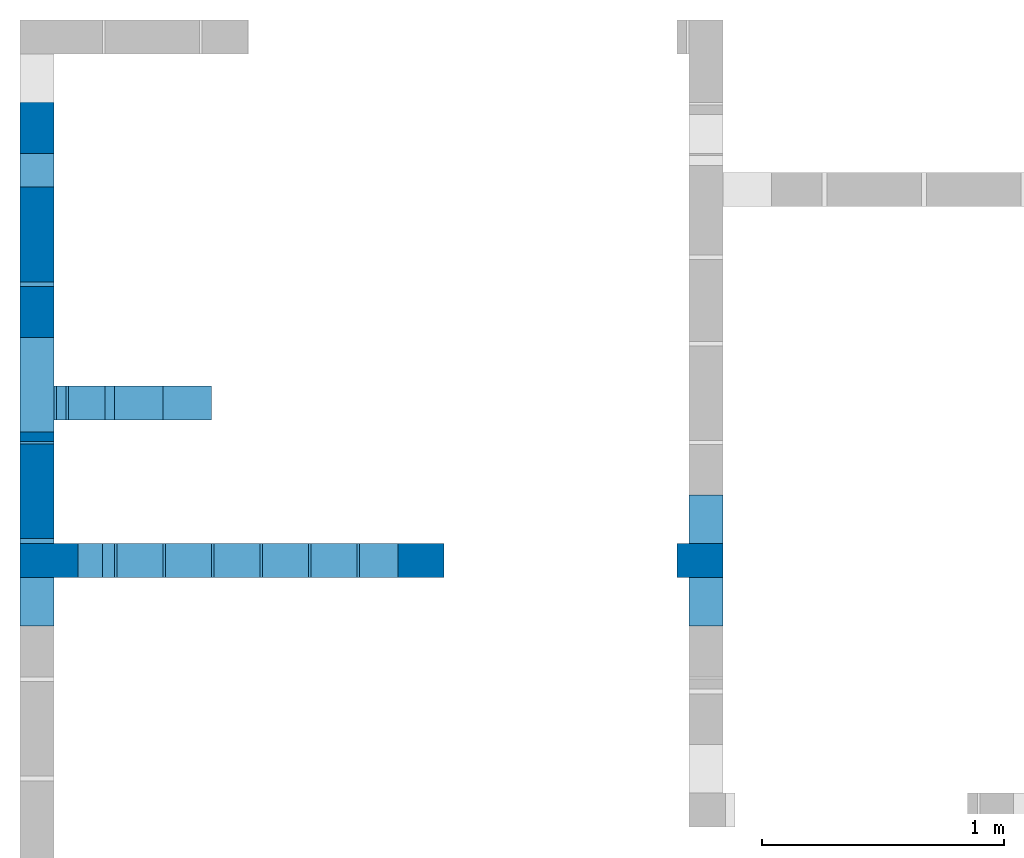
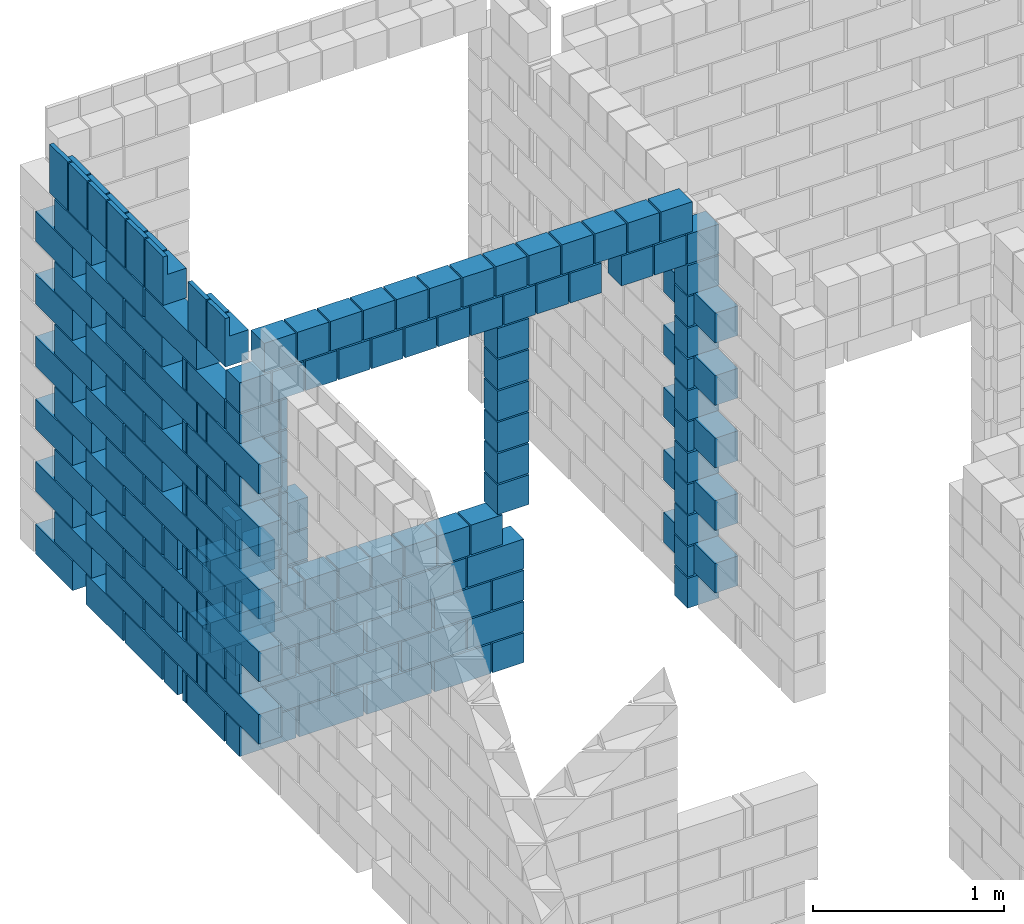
# One storey, part 8 of 12: 8 walls.
"""IFC4 building model written with IfcOpenShell, lengths in centimetres."""

from ifc_helpers import new_model, si_unit, derived_unit, frame, origin, origin_with_axes, origin_2d_with_axis, place, context, project, spatial, rectangle, extrude, element, save


model = new_model("IFC4")

# Units and contexts
model_context = context("Model", 3, precision=1e-05, world=origin_with_axes(), identifier="Body")
ifc_project = project(units=[si_unit("LENGTHUNIT", "METRE", prefix="CENTI"), si_unit("VOLUMEUNIT", "CUBIC_METRE"), si_unit("AREAUNIT", "SQUARE_METRE"), si_unit("POWERUNIT", "WATT"), si_unit("LUMINOUSFLUXUNIT", "LUMEN"), si_unit("ELECTRICCURRENTUNIT", "AMPERE"), si_unit("PRESSUREUNIT", "PASCAL", prefix="KILO"), si_unit("MASSUNIT", "GRAM", prefix="KILO"), si_unit("PLANEANGLEUNIT", "RADIAN"), derived_unit("VOLUMETRICFLOWRATEUNIT", [(si_unit("LENGTHUNIT", "METRE"), 3), (si_unit("TIMEUNIT", "SECOND"), -1)])], contexts=[model_context])

# Site, building, storey
site_placement = place(None, origin_with_axes())
site = spatial("IfcSite", under=ifc_project, at=site_placement)
building_placement = place(site_placement, origin())
building = spatial("IfcBuilding", under=site, at=building_placement)
storey_placement = place(building_placement, origin_with_axes())
storey = spatial("IfcBuildingStorey", under=building, at=storey_placement, Name="PISO", CompositionType="ELEMENT", Elevation=0.0)

# Walls
wall_1_placement = place(storey_placement, frame((18.0, 725.01, 239.0), z_axis=(0.0, 0.0, 1.0), x_axis=(1.0, 0.0, 0.0)))
element("IfcWall", 1, at=wall_1_placement, inside=storey, context=model_context, shape_type="SolidModel", body=[
    extrude(rectangle(XDim=34.0, YDim=14.0, at=origin_2d_with_axis()), frame((0.0, 0.0, -239.0), z_axis=(0.0, 0.0, 1.0), x_axis=(1.0, 0.0, 0.0)), (0.0, 0.0, 1.0), 19.0),
    extrude(rectangle(XDim=54.0, YDim=14.0, at=origin_2d_with_axis()), frame((-10.0, 0.0, -219.0), z_axis=(0.0, 0.0, 1.0), x_axis=(0.0, -1.0, 0.0)), (0.0, 0.0, 1.0), 19.0),
    extrude(rectangle(XDim=34.0, YDim=14.0, at=origin_2d_with_axis()), frame((0.0, 0.0, -199.0), z_axis=(0.0, 0.0, 1.0), x_axis=(1.0, 0.0, 0.0)), (0.0, 0.0, 1.0), 19.0),
    extrude(rectangle(XDim=54.0, YDim=14.0, at=origin_2d_with_axis()), frame((-10.0, 0.0, -179.0), z_axis=(0.0, 0.0, 1.0), x_axis=(0.0, -1.0, 0.0)), (0.0, 0.0, 1.0), 19.0),
    extrude(rectangle(XDim=34.0, YDim=14.0, at=origin_2d_with_axis()), frame((0.0, 0.0, -159.0), z_axis=(0.0, 0.0, 1.0), x_axis=(1.0, 0.0, 0.0)), (0.0, 0.0, 1.0), 19.0),
    extrude(rectangle(XDim=54.0, YDim=14.0, at=origin_2d_with_axis()), frame((-10.0, 0.0, -139.0), z_axis=(0.0, 0.0, 1.0), x_axis=(0.0, -1.0, 0.0)), (0.0, 0.0, 1.0), 19.0),
    extrude(rectangle(XDim=54.0, YDim=14.0, at=origin_2d_with_axis()), frame((-10.0, 0.0, -99.0), z_axis=(0.0, 0.0, 1.0), x_axis=(0.0, -1.0, 0.0)), (0.0, 0.0, 1.0), 19.0),
    extrude(rectangle(XDim=54.0, YDim=14.0, at=origin_2d_with_axis()), frame((-10.0, 0.0, -59.0), z_axis=(0.0, 0.0, 1.0), x_axis=(0.0, -1.0, 0.0)), (0.0, 0.0, 1.0), 19.0),
    extrude(rectangle(XDim=54.0, YDim=14.0, at=origin_2d_with_axis()), frame((-10.0, 0.0, -19.0), z_axis=(0.0, 0.0, 1.0), x_axis=(0.0, -1.0, 0.0)), (0.0, 0.0, 1.0), 19.0),
])
wall_2_placement = place(storey_placement, frame((281.5, 660.01, 239.0), z_axis=(0.0, 0.0, 1.0), x_axis=(1.0, 0.0, 0.0)))
element("IfcWall", 2, at=wall_2_placement, inside=storey, context=model_context, shape_type="SolidModel", body=[
    extrude(rectangle(XDim=19.0, YDim=14.0, at=origin_2d_with_axis()), frame((0.0, 0.0, -239.0), z_axis=(0.0, 0.0, 1.0), x_axis=(-1.0, 0.0, 0.0)), (0.0, 0.0, 1.0), 19.0),
    extrude(rectangle(XDim=54.0, YDim=14.0, at=origin_2d_with_axis()), frame((2.5, 0.0, -219.0), z_axis=(0.0, 0.0, 1.0), x_axis=(0.0, -1.0, 0.0)), (0.0, 0.0, 1.0), 19.0),
    extrude(rectangle(XDim=19.0, YDim=14.0, at=origin_2d_with_axis()), frame((0.0, 0.0, -199.0), z_axis=(0.0, 0.0, 1.0), x_axis=(-1.0, 0.0, 0.0)), (0.0, 0.0, 1.0), 19.0),
    extrude(rectangle(XDim=54.0, YDim=14.0, at=origin_2d_with_axis()), frame((2.5, 0.0, -179.0), z_axis=(0.0, 0.0, 1.0), x_axis=(0.0, -1.0, 0.0)), (0.0, 0.0, 1.0), 19.0),
    extrude(rectangle(XDim=19.0, YDim=14.0, at=origin_2d_with_axis()), frame((0.0, 0.0, -159.0), z_axis=(0.0, 0.0, 1.0), x_axis=(-1.0, 0.0, 0.0)), (0.0, 0.0, 1.0), 19.0),
    extrude(rectangle(XDim=54.0, YDim=14.0, at=origin_2d_with_axis()), frame((2.5, 0.0, -139.0), z_axis=(0.0, 0.0, 1.0), x_axis=(0.0, -1.0, 0.0)), (0.0, 0.0, 1.0), 19.0),
    extrude(rectangle(XDim=19.0, YDim=14.0, at=origin_2d_with_axis()), frame((0.0, 0.0, -119.0), z_axis=(0.0, 0.0, 1.0), x_axis=(-1.0, 0.0, 0.0)), (0.0, 0.0, 1.0), 19.0),
    extrude(rectangle(XDim=54.0, YDim=14.0, at=origin_2d_with_axis()), frame((2.5, 0.0, -99.0), z_axis=(0.0, 0.0, 1.0), x_axis=(0.0, -1.0, 0.0)), (0.0, 0.0, 1.0), 19.0),
    extrude(rectangle(XDim=19.0, YDim=14.0, at=origin_2d_with_axis()), frame((0.0, 0.0, -79.0), z_axis=(0.0, 0.0, 1.0), x_axis=(-1.0, 0.0, 0.0)), (0.0, 0.0, 1.0), 19.0),
    extrude(rectangle(XDim=54.0, YDim=14.0, at=origin_2d_with_axis()), frame((2.5, 0.0, -59.0), z_axis=(0.0, 0.0, 1.0), x_axis=(0.0, -1.0, 0.0)), (0.0, 0.0, 1.0), 19.0),
    extrude(rectangle(XDim=19.0, YDim=14.0, at=origin_2d_with_axis()), frame((0.0, 0.0, -39.0), z_axis=(0.0, 0.0, 1.0), x_axis=(-1.0, 0.0, 0.0)), (0.0, 0.0, 1.0), 19.0),
    extrude(rectangle(XDim=19.0, YDim=14.0, at=origin_2d_with_axis()), frame((0.0, 0.0, -19.0), z_axis=(0.0, 0.0, 1.0), x_axis=(-1.0, 0.0, 0.0)), (0.0, 0.0, 1.0), 19.0),
])
wall_3_placement = place(storey_placement, frame((18.0, 660.01, 239.0), z_axis=(0.0, 0.0, 1.0), x_axis=(1.0, 0.0, 0.0)))
element("IfcWall", 3, at=wall_3_placement, inside=storey, context=model_context, shape_type="SolidModel", body=[
    extrude(rectangle(XDim=34.0, YDim=14.0, at=origin_2d_with_axis()), frame((0.0, 0.0, -239.0), z_axis=(0.0, 0.0, 1.0), x_axis=(1.0, 0.0, 0.0)), (0.0, 0.0, 1.0), 19.0),
    extrude(rectangle(XDim=54.0, YDim=14.0, at=origin_2d_with_axis()), frame((-10.0, 0.0, -219.0), z_axis=(0.0, 0.0, 1.0), x_axis=(0.0, 1.0, 0.0)), (0.0, 0.0, 1.0), 19.0),
    extrude(rectangle(XDim=34.0, YDim=14.0, at=origin_2d_with_axis()), frame((0.0, 0.0, -199.0), z_axis=(0.0, 0.0, 1.0), x_axis=(1.0, 0.0, 0.0)), (0.0, 0.0, 1.0), 19.0),
    extrude(rectangle(XDim=54.0, YDim=14.0, at=origin_2d_with_axis()), frame((-10.0, 0.0, -179.0), z_axis=(0.0, 0.0, 1.0), x_axis=(0.0, 1.0, 0.0)), (0.0, 0.0, 1.0), 19.0),
    extrude(rectangle(XDim=19.0, YDim=14.0, at=origin_2d_with_axis()), frame((-7.5, 0.0, -159.0), z_axis=(0.0, 0.0, 1.0), x_axis=(1.0, 0.0, 0.0)), (0.0, 0.0, 1.0), 19.0),
    extrude(rectangle(XDim=54.0, YDim=14.0, at=origin_2d_with_axis()), frame((-10.0, 0.0, -139.0), z_axis=(0.0, 0.0, 1.0), x_axis=(0.0, 1.0, 0.0)), (0.0, 0.0, 1.0), 19.0),
    extrude(rectangle(XDim=24.0, YDim=14.0, at=origin_2d_with_axis()), frame((-5.0, 0.0, -119.0), z_axis=(0.0, 0.0, 1.0), x_axis=(1.0, 0.0, 0.0)), (0.0, 0.0, 1.0), 19.0),
    extrude(rectangle(XDim=54.0, YDim=14.0, at=origin_2d_with_axis()), frame((-10.0, 0.0, -99.0), z_axis=(0.0, 0.0, 1.0), x_axis=(0.0, 1.0, 0.0)), (0.0, 0.0, 1.0), 19.0),
    extrude(rectangle(XDim=24.0, YDim=14.0, at=origin_2d_with_axis()), frame((-5.0, 0.0, -79.0), z_axis=(0.0, 0.0, 1.0), x_axis=(1.0, 0.0, 0.0)), (0.0, 0.0, 1.0), 19.0),
    extrude(rectangle(XDim=54.0, YDim=14.0, at=origin_2d_with_axis()), frame((-10.0, 0.0, -59.0), z_axis=(0.0, 0.0, 1.0), x_axis=(0.0, 1.0, 0.0)), (0.0, 0.0, 1.0), 19.0),
    extrude(rectangle(XDim=24.0, YDim=14.0, at=origin_2d_with_axis()), frame((-5.0, 0.0, -39.0), z_axis=(0.0, 0.0, 1.0), x_axis=(1.0, 0.0, 0.0)), (0.0, 0.0, 1.0), 19.0),
    extrude(rectangle(XDim=19.0, YDim=14.0, at=origin_2d_with_axis()), frame((-7.5, 0.0, -19.0), z_axis=(0.0, 0.0, 1.0), x_axis=(1.0, 0.0, 0.0)), (0.0, 0.0, 1.0), 19.0),
])
wall_4_placement = place(storey_placement, frame((60.5, 725.01, 99.0), z_axis=(0.0, 0.0, 1.0), x_axis=(1.0, 0.0, 0.0)))
element("IfcWall", 4, at=wall_4_placement, inside=storey, context=model_context, shape_type="SolidModel", body=[
    extrude(rectangle(XDim=39.0, YDim=14.0, at=origin_2d_with_axis()), frame((0.0, 0.0, -99.0), z_axis=(0.0, 0.0, 1.0), x_axis=(-1.0, 0.0, 0.0)), (0.0, 0.0, 1.0), 19.0),
    extrude(rectangle(XDim=19.0, YDim=14.0, at=origin_2d_with_axis()), frame((10.0, 0.0, -79.0), z_axis=(0.0, 0.0, 1.0), x_axis=(-1.0, 0.0, 0.0)), (0.0, 0.0, 1.0), 19.0),
    extrude(rectangle(XDim=39.0, YDim=14.0, at=origin_2d_with_axis()), frame((0.0, 0.0, -59.0), z_axis=(0.0, 0.0, 1.0), x_axis=(-1.0, 0.0, 0.0)), (0.0, 0.0, 1.0), 19.0),
    extrude(rectangle(XDim=19.0, YDim=14.0, at=origin_2d_with_axis()), frame((10.0, 0.0, -39.0), z_axis=(0.0, 0.0, 1.0), x_axis=(-1.0, 0.0, 0.0)), (0.0, 0.0, 1.0), 19.0),
    extrude(rectangle(XDim=39.0, YDim=14.0, at=origin_2d_with_axis()), frame((0.0, 0.0, -19.0), z_axis=(0.0, 0.0, 1.0), x_axis=(-1.0, 0.0, 0.0)), (0.0, 0.0, 1.0), 19.0),
])
wall_5_placement = place(storey_placement, frame((8.0, 800.01, 271.0), z_axis=(0.0, 0.0, 1.0), x_axis=(1.0, 0.0, 0.0)))
element("IfcWall", 5, at=wall_5_placement, inside=storey, Name="PAR-PISO-11", context=model_context, shape_type="SolidModel", body=[
    extrude(rectangle(XDim=39.0, YDim=14.0, at=origin_2d_with_axis()), frame((0.0, -46.5, -271.0), z_axis=(0.0, 0.0, 1.0), x_axis=(0.0, 1.0, 0.0)), (0.0, 0.0, 1.0), 19.0),
    extrude(rectangle(XDim=39.0, YDim=14.0, at=origin_2d_with_axis()), frame((0.0, -5.5, -271.0), z_axis=(0.0, 0.0, 1.0), x_axis=(0.0, 1.0, 0.0)), (0.0, 0.0, 1.0), 19.0),
    extrude(rectangle(XDim=39.0, YDim=14.0, at=origin_2d_with_axis()), frame((0.0, 47.5, -271.0), z_axis=(0.0, 0.0, 1.0), x_axis=(0.0, 1.0, 0.0)), (0.0, 0.0, 1.0), 19.0),
    extrude(rectangle(XDim=39.0, YDim=14.0, at=origin_2d_with_axis()), frame((0.0, -26.5, -251.0), z_axis=(0.0, 0.0, 1.0), x_axis=(0.0, 1.0, 0.0)), (0.0, 0.0, 1.0), 19.0),
    extrude(rectangle(XDim=39.0, YDim=14.0, at=origin_2d_with_axis()), frame((0.0, 27.5, -251.0), z_axis=(0.0, 0.0, 1.0), x_axis=(0.0, 1.0, 0.0)), (0.0, 0.0, 1.0), 19.0),
    extrude(rectangle(XDim=39.0, YDim=14.0, at=origin_2d_with_axis()), frame((0.0, -46.5, -231.0), z_axis=(0.0, 0.0, 1.0), x_axis=(0.0, 1.0, 0.0)), (0.0, 0.0, 1.0), 19.0),
    extrude(rectangle(XDim=39.0, YDim=14.0, at=origin_2d_with_axis()), frame((0.0, -5.5, -231.0), z_axis=(0.0, 0.0, 1.0), x_axis=(0.0, 1.0, 0.0)), (0.0, 0.0, 1.0), 19.0),
    extrude(rectangle(XDim=39.0, YDim=14.0, at=origin_2d_with_axis()), frame((0.0, 47.5, -231.0), z_axis=(0.0, 0.0, 1.0), x_axis=(0.0, 1.0, 0.0)), (0.0, 0.0, 1.0), 19.0),
    extrude(rectangle(XDim=39.0, YDim=14.0, at=origin_2d_with_axis()), frame((0.0, -26.5, -211.0), z_axis=(0.0, 0.0, 1.0), x_axis=(0.0, 1.0, 0.0)), (0.0, 0.0, 1.0), 19.0),
    extrude(rectangle(XDim=39.0, YDim=14.0, at=origin_2d_with_axis()), frame((0.0, 27.5, -211.0), z_axis=(0.0, 0.0, 1.0), x_axis=(0.0, 1.0, 0.0)), (0.0, 0.0, 1.0), 19.0),
    extrude(rectangle(XDim=39.0, YDim=14.0, at=origin_2d_with_axis()), frame((0.0, -46.5, -191.0), z_axis=(0.0, 0.0, 1.0), x_axis=(0.0, 1.0, 0.0)), (0.0, 0.0, 1.0), 19.0),
    extrude(rectangle(XDim=39.0, YDim=14.0, at=origin_2d_with_axis()), frame((0.0, -5.5, -191.0), z_axis=(0.0, 0.0, 1.0), x_axis=(0.0, 1.0, 0.0)), (0.0, 0.0, 1.0), 19.0),
    extrude(rectangle(XDim=39.0, YDim=14.0, at=origin_2d_with_axis()), frame((0.0, 47.5, -191.0), z_axis=(0.0, 0.0, 1.0), x_axis=(0.0, 1.0, 0.0)), (0.0, 0.0, 1.0), 19.0),
    extrude(rectangle(XDim=39.0, YDim=14.0, at=origin_2d_with_axis()), frame((0.0, -26.5, -171.0), z_axis=(0.0, 0.0, 1.0), x_axis=(0.0, 1.0, 0.0)), (0.0, 0.0, 1.0), 19.0),
    extrude(rectangle(XDim=39.0, YDim=14.0, at=origin_2d_with_axis()), frame((0.0, 27.5, -171.0), z_axis=(0.0, 0.0, 1.0), x_axis=(0.0, 1.0, 0.0)), (0.0, 0.0, 1.0), 19.0),
    extrude(rectangle(XDim=39.0, YDim=14.0, at=origin_2d_with_axis()), frame((0.0, -46.5, -151.0), z_axis=(0.0, 0.0, 1.0), x_axis=(0.0, 1.0, 0.0)), (0.0, 0.0, 1.0), 19.0),
    extrude(rectangle(XDim=39.0, YDim=14.0, at=origin_2d_with_axis()), frame((0.0, -5.5, -151.0), z_axis=(0.0, 0.0, 1.0), x_axis=(0.0, 1.0, 0.0)), (0.0, 0.0, 1.0), 19.0),
    extrude(rectangle(XDim=39.0, YDim=14.0, at=origin_2d_with_axis()), frame((0.0, 47.5, -151.0), z_axis=(0.0, 0.0, 1.0), x_axis=(0.0, 1.0, 0.0)), (0.0, 0.0, 1.0), 19.0),
    extrude(rectangle(XDim=39.0, YDim=14.0, at=origin_2d_with_axis()), frame((0.0, -26.5, -131.0), z_axis=(0.0, 0.0, 1.0), x_axis=(0.0, 1.0, 0.0)), (0.0, 0.0, 1.0), 19.0),
    extrude(rectangle(XDim=39.0, YDim=14.0, at=origin_2d_with_axis()), frame((0.0, 27.5, -131.0), z_axis=(0.0, 0.0, 1.0), x_axis=(0.0, 1.0, 0.0)), (0.0, 0.0, 1.0), 19.0),
    extrude(rectangle(XDim=39.0, YDim=14.0, at=origin_2d_with_axis()), frame((0.0, -46.5, -111.0), z_axis=(0.0, 0.0, 1.0), x_axis=(0.0, 1.0, 0.0)), (0.0, 0.0, 1.0), 19.0),
    extrude(rectangle(XDim=39.0, YDim=14.0, at=origin_2d_with_axis()), frame((0.0, -5.5, -111.0), z_axis=(0.0, 0.0, 1.0), x_axis=(0.0, 1.0, 0.0)), (0.0, 0.0, 1.0), 19.0),
    extrude(rectangle(XDim=39.0, YDim=14.0, at=origin_2d_with_axis()), frame((0.0, 47.5, -111.0), z_axis=(0.0, 0.0, 1.0), x_axis=(0.0, 1.0, 0.0)), (0.0, 0.0, 1.0), 19.0),
    extrude(rectangle(XDim=39.0, YDim=14.0, at=origin_2d_with_axis()), frame((0.0, -26.5, -91.0), z_axis=(0.0, 0.0, 1.0), x_axis=(0.0, 1.0, 0.0)), (0.0, 0.0, 1.0), 19.0),
    extrude(rectangle(XDim=39.0, YDim=14.0, at=origin_2d_with_axis()), frame((0.0, 27.5, -91.0), z_axis=(0.0, 0.0, 1.0), x_axis=(0.0, 1.0, 0.0)), (0.0, 0.0, 1.0), 19.0),
    extrude(rectangle(XDim=39.0, YDim=14.0, at=origin_2d_with_axis()), frame((0.0, -46.5, -71.0), z_axis=(0.0, 0.0, 1.0), x_axis=(0.0, 1.0, 0.0)), (0.0, 0.0, 1.0), 19.0),
    extrude(rectangle(XDim=39.0, YDim=14.0, at=origin_2d_with_axis()), frame((0.0, -5.5, -71.0), z_axis=(0.0, 0.0, 1.0), x_axis=(0.0, 1.0, 0.0)), (0.0, 0.0, 1.0), 19.0),
    extrude(rectangle(XDim=39.0, YDim=14.0, at=origin_2d_with_axis()), frame((0.0, 47.5, -71.0), z_axis=(0.0, 0.0, 1.0), x_axis=(0.0, 1.0, 0.0)), (0.0, 0.0, 1.0), 19.0),
    extrude(rectangle(XDim=39.0, YDim=14.0, at=origin_2d_with_axis()), frame((0.0, -26.5, -51.0), z_axis=(0.0, 0.0, 1.0), x_axis=(0.0, 1.0, 0.0)), (0.0, 0.0, 1.0), 19.0),
    extrude(rectangle(XDim=39.0, YDim=14.0, at=origin_2d_with_axis()), frame((0.0, 27.5, -51.0), z_axis=(0.0, 0.0, 1.0), x_axis=(0.0, 1.0, 0.0)), (0.0, 0.0, 1.0), 19.0),
    extrude(rectangle(XDim=19.0, YDim=2.5, at=origin_2d_with_axis()), frame((-5.75, -57.5, -12.0), z_axis=(0.0, 0.0, 1.0), x_axis=(0.0, 1.0, 0.0)), (0.0, 0.0, 1.0), 12.0),
    extrude(rectangle(XDim=19.0, YDim=14.0, at=origin_2d_with_axis()), frame((0.0, -57.5, -31.0), z_axis=(0.0, 0.0, 1.0), x_axis=(0.0, 1.0, 0.0)), (0.0, 0.0, 1.0), 19.0),
    extrude(rectangle(XDim=19.0, YDim=2.5, at=origin_2d_with_axis()), frame((-5.75, -37.5, -12.0), z_axis=(0.0, 0.0, 1.0), x_axis=(0.0, 1.0, 0.0)), (0.0, 0.0, 1.0), 12.0),
    extrude(rectangle(XDim=19.0, YDim=14.0, at=origin_2d_with_axis()), frame((0.0, -37.5, -31.0), z_axis=(0.0, 0.0, 1.0), x_axis=(0.0, 1.0, 0.0)), (0.0, 0.0, 1.0), 19.0),
    extrude(rectangle(XDim=19.0, YDim=2.5, at=origin_2d_with_axis()), frame((-5.75, -17.5, -12.0), z_axis=(0.0, 0.0, 1.0), x_axis=(0.0, 1.0, 0.0)), (0.0, 0.0, 1.0), 12.0),
    extrude(rectangle(XDim=19.0, YDim=14.0, at=origin_2d_with_axis()), frame((0.0, -17.5, -31.0), z_axis=(0.0, 0.0, 1.0), x_axis=(0.0, 1.0, 0.0)), (0.0, 0.0, 1.0), 19.0),
    extrude(rectangle(XDim=19.0, YDim=2.5, at=origin_2d_with_axis()), frame((-5.75, 2.5, -12.0), z_axis=(0.0, 0.0, 1.0), x_axis=(0.0, 1.0, 0.0)), (0.0, 0.0, 1.0), 12.0),
    extrude(rectangle(XDim=19.0, YDim=14.0, at=origin_2d_with_axis()), frame((0.0, 2.5, -31.0), z_axis=(0.0, 0.0, 1.0), x_axis=(0.0, 1.0, 0.0)), (0.0, 0.0, 1.0), 19.0),
    extrude(rectangle(XDim=19.0, YDim=2.5, at=origin_2d_with_axis()), frame((-5.75, 22.5, -12.0), z_axis=(0.0, 0.0, 1.0), x_axis=(0.0, 1.0, 0.0)), (0.0, 0.0, 1.0), 12.0),
    extrude(rectangle(XDim=19.0, YDim=14.0, at=origin_2d_with_axis()), frame((0.0, 22.5, -31.0), z_axis=(0.0, 0.0, 1.0), x_axis=(0.0, 1.0, 0.0)), (0.0, 0.0, 1.0), 19.0),
    extrude(rectangle(XDim=19.0, YDim=2.5, at=origin_2d_with_axis()), frame((-5.75, 42.5, -12.0), z_axis=(0.0, 0.0, 1.0), x_axis=(0.0, 1.0, 0.0)), (0.0, 0.0, 1.0), 12.0),
    extrude(rectangle(XDim=19.0, YDim=14.0, at=origin_2d_with_axis()), frame((0.0, 42.5, -31.0), z_axis=(0.0, 0.0, 1.0), x_axis=(0.0, 1.0, 0.0)), (0.0, 0.0, 1.0), 19.0),
])
wall_6_placement = place(storey_placement, frame((8.0, 690.51, 271.0), z_axis=(0.0, 0.0, 1.0), x_axis=(1.0, 0.0, 0.0)))
element("IfcWall", 6, at=wall_6_placement, inside=storey, Name="PAR-PISO-11", context=model_context, shape_type="SolidModel", body=[
    extrude(rectangle(XDim=39.0, YDim=14.0, at=origin_2d_with_axis()), frame((0.0, -2.0, -271.0), z_axis=(0.0, 0.0, 1.0), x_axis=(0.0, 1.0, 0.0)), (0.0, 0.0, 1.0), 19.0),
    extrude(rectangle(XDim=4.0, YDim=14.0, at=origin_2d_with_axis()), frame((0.0, 20.5, -271.0), z_axis=(0.0, 0.0, 1.0), x_axis=(0.0, 1.0, 0.0)), (0.0, 0.0, 1.0), 19.0),
    extrude(rectangle(XDim=9.0, YDim=14.0, at=origin_2d_with_axis()), frame((0.0, 2.0, -251.0), z_axis=(0.0, 0.0, 1.0), x_axis=(0.0, 1.0, 0.0)), (0.0, 0.0, 1.0), 19.0),
    extrude(rectangle(XDim=39.0, YDim=14.0, at=origin_2d_with_axis()), frame((0.0, -2.0, -231.0), z_axis=(0.0, 0.0, 1.0), x_axis=(0.0, 1.0, 0.0)), (0.0, 0.0, 1.0), 19.0),
    extrude(rectangle(XDim=4.0, YDim=14.0, at=origin_2d_with_axis()), frame((0.0, 20.5, -231.0), z_axis=(0.0, 0.0, 1.0), x_axis=(0.0, 1.0, 0.0)), (0.0, 0.0, 1.0), 19.0),
    extrude(rectangle(XDim=9.0, YDim=14.0, at=origin_2d_with_axis()), frame((0.0, 2.0, -211.0), z_axis=(0.0, 0.0, 1.0), x_axis=(0.0, 1.0, 0.0)), (0.0, 0.0, 1.0), 19.0),
    extrude(rectangle(XDim=39.0, YDim=14.0, at=origin_2d_with_axis()), frame((0.0, -2.0, -191.0), z_axis=(0.0, 0.0, 1.0), x_axis=(0.0, 1.0, 0.0)), (0.0, 0.0, 1.0), 19.0),
    extrude(rectangle(XDim=4.0, YDim=14.0, at=origin_2d_with_axis()), frame((0.0, 20.5, -191.0), z_axis=(0.0, 0.0, 1.0), x_axis=(0.0, 1.0, 0.0)), (0.0, 0.0, 1.0), 19.0),
    extrude(rectangle(XDim=9.0, YDim=14.0, at=origin_2d_with_axis()), frame((0.0, 2.0, -171.0), z_axis=(0.0, 0.0, 1.0), x_axis=(0.0, 1.0, 0.0)), (0.0, 0.0, 1.0), 19.0),
    extrude(rectangle(XDim=39.0, YDim=14.0, at=origin_2d_with_axis()), frame((0.0, -2.0, -151.0), z_axis=(0.0, 0.0, 1.0), x_axis=(0.0, 1.0, 0.0)), (0.0, 0.0, 1.0), 19.0),
    extrude(rectangle(XDim=4.0, YDim=14.0, at=origin_2d_with_axis()), frame((0.0, 20.5, -151.0), z_axis=(0.0, 0.0, 1.0), x_axis=(0.0, 1.0, 0.0)), (0.0, 0.0, 1.0), 19.0),
    extrude(rectangle(XDim=9.0, YDim=14.0, at=origin_2d_with_axis()), frame((0.0, 2.0, -131.0), z_axis=(0.0, 0.0, 1.0), x_axis=(0.0, 1.0, 0.0)), (0.0, 0.0, 1.0), 19.0),
    extrude(rectangle(XDim=39.0, YDim=14.0, at=origin_2d_with_axis()), frame((0.0, -2.0, -111.0), z_axis=(0.0, 0.0, 1.0), x_axis=(0.0, 1.0, 0.0)), (0.0, 0.0, 1.0), 19.0),
    extrude(rectangle(XDim=4.0, YDim=14.0, at=origin_2d_with_axis()), frame((0.0, 20.5, -111.0), z_axis=(0.0, 0.0, 1.0), x_axis=(0.0, 1.0, 0.0)), (0.0, 0.0, 1.0), 19.0),
    extrude(rectangle(XDim=9.0, YDim=14.0, at=origin_2d_with_axis()), frame((0.0, 2.0, -91.0), z_axis=(0.0, 0.0, 1.0), x_axis=(0.0, 1.0, 0.0)), (0.0, 0.0, 1.0), 19.0),
    extrude(rectangle(XDim=39.0, YDim=14.0, at=origin_2d_with_axis()), frame((0.0, -2.0, -71.0), z_axis=(0.0, 0.0, 1.0), x_axis=(0.0, 1.0, 0.0)), (0.0, 0.0, 1.0), 19.0),
    extrude(rectangle(XDim=4.0, YDim=14.0, at=origin_2d_with_axis()), frame((0.0, 20.5, -71.0), z_axis=(0.0, 0.0, 1.0), x_axis=(0.0, 1.0, 0.0)), (0.0, 0.0, 1.0), 19.0),
    extrude(rectangle(XDim=19.0, YDim=2.5, at=origin_2d_with_axis()), frame((-5.75, -13.0, -12.0), z_axis=(0.0, 0.0, 1.0), x_axis=(0.0, 1.0, 0.0)), (0.0, 0.0, 1.0), 12.0),
    extrude(rectangle(XDim=19.0, YDim=14.0, at=origin_2d_with_axis()), frame((0.0, -13.0, -31.0), z_axis=(0.0, 0.0, 1.0), x_axis=(0.0, 1.0, 0.0)), (0.0, 0.0, 1.0), 19.0),
    extrude(rectangle(XDim=19.0, YDim=2.5, at=origin_2d_with_axis()), frame((-5.75, 7.0, -12.0), z_axis=(0.0, 0.0, 1.0), x_axis=(0.0, 1.0, 0.0)), (0.0, 0.0, 1.0), 12.0),
    extrude(rectangle(XDim=19.0, YDim=14.0, at=origin_2d_with_axis()), frame((0.0, 7.0, -31.0), z_axis=(0.0, 0.0, 1.0), x_axis=(0.0, 1.0, 0.0)), (0.0, 0.0, 1.0), 19.0),
])
wall_7_placement = place(storey_placement, frame((38.0, 725.01, 99.0), z_axis=(0.0, 0.0, 1.0), x_axis=(1.0, 0.0, 0.0)))
element("IfcWall", 7, at=wall_7_placement, inside=storey, Name="PAR-PISO-3", context=model_context, shape_type="SolidModel", body=[
    extrude(rectangle(XDim=4.0, YDim=14.0, at=origin_2d_with_axis()), frame((0.0, 0.0, -99.0), z_axis=(0.0, 0.0, 1.0), x_axis=(-1.0, 0.0, 0.0)), (0.0, 0.0, 1.0), 19.0),
    extrude(rectangle(XDim=39.0, YDim=14.0, at=origin_2d_with_axis()), frame((2.5, 0.0, -79.0), z_axis=(0.0, 0.0, 1.0), x_axis=(-1.0, 0.0, 0.0)), (0.0, 0.0, 1.0), 19.0),
    extrude(rectangle(XDim=4.0, YDim=14.0, at=origin_2d_with_axis()), frame((-20.0, 0.0, -79.0), z_axis=(0.0, 0.0, 1.0), x_axis=(-1.0, 0.0, 0.0)), (0.0, 0.0, 1.0), 19.0),
    extrude(rectangle(XDim=4.0, YDim=14.0, at=origin_2d_with_axis()), frame((0.0, 0.0, -59.0), z_axis=(0.0, 0.0, 1.0), x_axis=(-1.0, 0.0, 0.0)), (0.0, 0.0, 1.0), 19.0),
    extrude(rectangle(XDim=39.0, YDim=14.0, at=origin_2d_with_axis()), frame((2.5, 0.0, -39.0), z_axis=(0.0, 0.0, 1.0), x_axis=(-1.0, 0.0, 0.0)), (0.0, 0.0, 1.0), 19.0),
    extrude(rectangle(XDim=4.0, YDim=14.0, at=origin_2d_with_axis()), frame((-20.0, 0.0, -39.0), z_axis=(0.0, 0.0, 1.0), x_axis=(-1.0, 0.0, 0.0)), (0.0, 0.0, 1.0), 19.0),
    extrude(rectangle(XDim=4.0, YDim=14.0, at=origin_2d_with_axis()), frame((0.0, 0.0, -19.0), z_axis=(0.0, 0.0, 1.0), x_axis=(-1.0, 0.0, 0.0)), (0.0, 0.0, 1.0), 19.0),
])
wall_8_placement = place(storey_placement, frame((146.0, 660.01, 259.0), z_axis=(0.0, 0.0, 1.0), x_axis=(1.0, 0.0, 0.0)))
element("IfcWall", 8, at=wall_8_placement, inside=storey, Name="PAR-PISO-4", context=model_context, shape_type="SolidModel", body=[
    extrude(rectangle(XDim=39.0, YDim=14.0, at=origin_2d_with_axis()), frame((-89.5, 0.0, -259.0), z_axis=(0.0, 0.0, 1.0), x_axis=(1.0, 0.0, 0.0)), (0.0, 0.0, 1.0), 19.0),
    extrude(rectangle(XDim=39.0, YDim=14.0, at=origin_2d_with_axis()), frame((-48.5, 0.0, -259.0), z_axis=(0.0, 0.0, 1.0), x_axis=(1.0, 0.0, 0.0)), (0.0, 0.0, 1.0), 19.0),
    extrude(rectangle(XDim=34.0, YDim=14.0, at=origin_2d_with_axis()), frame((-10.0, 0.0, -259.0), z_axis=(0.0, 0.0, 1.0), x_axis=(1.0, 0.0, 0.0)), (0.0, 0.0, 1.0), 19.0),
    extrude(rectangle(XDim=19.0, YDim=14.0, at=origin_2d_with_axis()), frame((17.5, 0.0, -259.0), z_axis=(0.0, 0.0, 1.0), x_axis=(1.0, 0.0, 0.0)), (0.0, 0.0, 1.0), 19.0),
    extrude(rectangle(XDim=39.0, YDim=14.0, at=origin_2d_with_axis()), frame((-109.5, 0.0, -239.0), z_axis=(0.0, 0.0, 1.0), x_axis=(1.0, 0.0, 0.0)), (0.0, 0.0, 1.0), 19.0),
    extrude(rectangle(XDim=39.0, YDim=14.0, at=origin_2d_with_axis()), frame((-68.5, 0.0, -239.0), z_axis=(0.0, 0.0, 1.0), x_axis=(1.0, 0.0, 0.0)), (0.0, 0.0, 1.0), 19.0),
    extrude(rectangle(XDim=39.0, YDim=14.0, at=origin_2d_with_axis()), frame((-27.5, 0.0, -239.0), z_axis=(0.0, 0.0, 1.0), x_axis=(1.0, 0.0, 0.0)), (0.0, 0.0, 1.0), 19.0),
    extrude(rectangle(XDim=4.0, YDim=14.0, at=origin_2d_with_axis()), frame((128.0, 0.0, -239.0), z_axis=(0.0, 0.0, 1.0), x_axis=(1.0, 0.0, 0.0)), (0.0, 0.0, 1.0), 19.0),
    extrude(rectangle(XDim=34.0, YDim=14.0, at=origin_2d_with_axis()), frame((10.0, 0.0, -239.0), z_axis=(0.0, 0.0, 1.0), x_axis=(1.0, 0.0, 0.0)), (0.0, 0.0, 1.0), 19.0),
    extrude(rectangle(XDim=39.0, YDim=14.0, at=origin_2d_with_axis()), frame((-89.5, 0.0, -219.0), z_axis=(0.0, 0.0, 1.0), x_axis=(1.0, 0.0, 0.0)), (0.0, 0.0, 1.0), 19.0),
    extrude(rectangle(XDim=39.0, YDim=14.0, at=origin_2d_with_axis()), frame((-48.5, 0.0, -219.0), z_axis=(0.0, 0.0, 1.0), x_axis=(1.0, 0.0, 0.0)), (0.0, 0.0, 1.0), 19.0),
    extrude(rectangle(XDim=34.0, YDim=14.0, at=origin_2d_with_axis()), frame((-10.0, 0.0, -219.0), z_axis=(0.0, 0.0, 1.0), x_axis=(1.0, 0.0, 0.0)), (0.0, 0.0, 1.0), 19.0),
    extrude(rectangle(XDim=19.0, YDim=14.0, at=origin_2d_with_axis()), frame((17.5, 0.0, -219.0), z_axis=(0.0, 0.0, 1.0), x_axis=(1.0, 0.0, 0.0)), (0.0, 0.0, 1.0), 19.0),
    extrude(rectangle(XDim=39.0, YDim=14.0, at=origin_2d_with_axis()), frame((-109.5, 0.0, -199.0), z_axis=(0.0, 0.0, 1.0), x_axis=(1.0, 0.0, 0.0)), (0.0, 0.0, 1.0), 19.0),
    extrude(rectangle(XDim=39.0, YDim=14.0, at=origin_2d_with_axis()), frame((-68.5, 0.0, -199.0), z_axis=(0.0, 0.0, 1.0), x_axis=(1.0, 0.0, 0.0)), (0.0, 0.0, 1.0), 19.0),
    extrude(rectangle(XDim=39.0, YDim=14.0, at=origin_2d_with_axis()), frame((-27.5, 0.0, -199.0), z_axis=(0.0, 0.0, 1.0), x_axis=(1.0, 0.0, 0.0)), (0.0, 0.0, 1.0), 19.0),
    extrude(rectangle(XDim=4.0, YDim=14.0, at=origin_2d_with_axis()), frame((128.0, 0.0, -199.0), z_axis=(0.0, 0.0, 1.0), x_axis=(1.0, 0.0, 0.0)), (0.0, 0.0, 1.0), 19.0),
    extrude(rectangle(XDim=34.0, YDim=14.0, at=origin_2d_with_axis()), frame((10.0, 0.0, -199.0), z_axis=(0.0, 0.0, 1.0), x_axis=(1.0, 0.0, 0.0)), (0.0, 0.0, 1.0), 19.0),
    extrude(rectangle(XDim=19.0, YDim=14.0, at=origin_2d_with_axis()), frame((-115.5, 0.0, -179.0), z_axis=(0.0, 0.0, 1.0), x_axis=(1.0, 0.0, 0.0)), (0.0, 0.0, 1.0), 19.0),
    extrude(rectangle(XDim=19.0, YDim=14.0, at=origin_2d_with_axis()), frame((-95.5, 0.0, -179.0), z_axis=(0.0, 0.0, 1.0), x_axis=(1.0, 0.0, 0.0)), (0.0, 0.0, 1.0), 19.0),
    extrude(rectangle(XDim=19.0, YDim=14.0, at=origin_2d_with_axis()), frame((-75.5, 0.0, -179.0), z_axis=(0.0, 0.0, 1.0), x_axis=(1.0, 0.0, 0.0)), (0.0, 0.0, 1.0), 19.0),
    extrude(rectangle(XDim=19.0, YDim=14.0, at=origin_2d_with_axis()), frame((-55.5, 0.0, -179.0), z_axis=(0.0, 0.0, 1.0), x_axis=(1.0, 0.0, 0.0)), (0.0, 0.0, 1.0), 19.0),
    extrude(rectangle(XDim=19.0, YDim=14.0, at=origin_2d_with_axis()), frame((-35.5, 0.0, -179.0), z_axis=(0.0, 0.0, 1.0), x_axis=(1.0, 0.0, 0.0)), (0.0, 0.0, 1.0), 19.0),
    extrude(rectangle(XDim=19.0, YDim=14.0, at=origin_2d_with_axis()), frame((-15.5, 0.0, -179.0), z_axis=(0.0, 0.0, 1.0), x_axis=(1.0, 0.0, 0.0)), (0.0, 0.0, 1.0), 19.0),
    extrude(rectangle(XDim=19.0, YDim=14.0, at=origin_2d_with_axis()), frame((4.5, 0.0, -179.0), z_axis=(0.0, 0.0, 1.0), x_axis=(1.0, 0.0, 0.0)), (0.0, 0.0, 1.0), 19.0),
    extrude(rectangle(XDim=4.0, YDim=14.0, at=origin_2d_with_axis()), frame((128.0, 0.0, -159.0), z_axis=(0.0, 0.0, 1.0), x_axis=(1.0, 0.0, 0.0)), (0.0, 0.0, 1.0), 19.0),
    extrude(rectangle(XDim=19.0, YDim=14.0, at=origin_2d_with_axis()), frame((20.5, 0.0, -159.0), z_axis=(0.0, 0.0, 1.0), x_axis=(1.0, 0.0, 0.0)), (0.0, 0.0, 1.0), 19.0),
    extrude(rectangle(XDim=9.0, YDim=14.0, at=origin_2d_with_axis()), frame((-125.5, 0.0, -159.0), z_axis=(0.0, 0.0, 1.0), x_axis=(1.0, 0.0, 0.0)), (0.0, 0.0, 1.0), 19.0),
    extrude(rectangle(XDim=4.0, YDim=14.0, at=origin_2d_with_axis()), frame((-118.0, 0.0, -159.0), z_axis=(0.0, 0.0, 1.0), x_axis=(1.0, 0.0, 0.0)), (0.0, 0.0, 1.0), 19.0),
    extrude(rectangle(XDim=19.0, YDim=14.0, at=origin_2d_with_axis()), frame((20.5, 0.0, -139.0), z_axis=(0.0, 0.0, 1.0), x_axis=(1.0, 0.0, 0.0)), (0.0, 0.0, 1.0), 19.0),
    extrude(rectangle(XDim=4.0, YDim=14.0, at=origin_2d_with_axis()), frame((-118.0, 0.0, -139.0), z_axis=(0.0, 0.0, 1.0), x_axis=(1.0, 0.0, 0.0)), (0.0, 0.0, 1.0), 19.0),
    extrude(rectangle(XDim=4.0, YDim=14.0, at=origin_2d_with_axis()), frame((128.0, 0.0, -119.0), z_axis=(0.0, 0.0, 1.0), x_axis=(1.0, 0.0, 0.0)), (0.0, 0.0, 1.0), 19.0),
    extrude(rectangle(XDim=19.0, YDim=14.0, at=origin_2d_with_axis()), frame((20.5, 0.0, -119.0), z_axis=(0.0, 0.0, 1.0), x_axis=(1.0, 0.0, 0.0)), (0.0, 0.0, 1.0), 19.0),
    extrude(rectangle(XDim=9.0, YDim=14.0, at=origin_2d_with_axis()), frame((-125.5, 0.0, -119.0), z_axis=(0.0, 0.0, 1.0), x_axis=(1.0, 0.0, 0.0)), (0.0, 0.0, 1.0), 19.0),
    extrude(rectangle(XDim=4.0, YDim=14.0, at=origin_2d_with_axis()), frame((-118.0, 0.0, -119.0), z_axis=(0.0, 0.0, 1.0), x_axis=(1.0, 0.0, 0.0)), (0.0, 0.0, 1.0), 19.0),
    extrude(rectangle(XDim=19.0, YDim=14.0, at=origin_2d_with_axis()), frame((20.5, 0.0, -99.0), z_axis=(0.0, 0.0, 1.0), x_axis=(1.0, 0.0, 0.0)), (0.0, 0.0, 1.0), 19.0),
    extrude(rectangle(XDim=4.0, YDim=14.0, at=origin_2d_with_axis()), frame((-118.0, 0.0, -99.0), z_axis=(0.0, 0.0, 1.0), x_axis=(1.0, 0.0, 0.0)), (0.0, 0.0, 1.0), 19.0),
    extrude(rectangle(XDim=4.0, YDim=14.0, at=origin_2d_with_axis()), frame((128.0, 0.0, -79.0), z_axis=(0.0, 0.0, 1.0), x_axis=(1.0, 0.0, 0.0)), (0.0, 0.0, 1.0), 19.0),
    extrude(rectangle(XDim=19.0, YDim=14.0, at=origin_2d_with_axis()), frame((20.5, 0.0, -79.0), z_axis=(0.0, 0.0, 1.0), x_axis=(1.0, 0.0, 0.0)), (0.0, 0.0, 1.0), 19.0),
    extrude(rectangle(XDim=9.0, YDim=14.0, at=origin_2d_with_axis()), frame((-125.5, 0.0, -79.0), z_axis=(0.0, 0.0, 1.0), x_axis=(1.0, 0.0, 0.0)), (0.0, 0.0, 1.0), 19.0),
    extrude(rectangle(XDim=4.0, YDim=14.0, at=origin_2d_with_axis()), frame((-118.0, 0.0, -79.0), z_axis=(0.0, 0.0, 1.0), x_axis=(1.0, 0.0, 0.0)), (0.0, 0.0, 1.0), 19.0),
    extrude(rectangle(XDim=19.0, YDim=14.0, at=origin_2d_with_axis()), frame((20.5, 0.0, -59.0), z_axis=(0.0, 0.0, 1.0), x_axis=(1.0, 0.0, 0.0)), (0.0, 0.0, 1.0), 19.0),
    extrude(rectangle(XDim=4.0, YDim=14.0, at=origin_2d_with_axis()), frame((-118.0, 0.0, -59.0), z_axis=(0.0, 0.0, 1.0), x_axis=(1.0, 0.0, 0.0)), (0.0, 0.0, 1.0), 19.0),
    extrude(rectangle(XDim=19.0, YDim=14.0, at=origin_2d_with_axis()), frame((-115.5, 0.0, -39.0), z_axis=(0.0, 0.0, 1.0), x_axis=(1.0, 0.0, 0.0)), (0.0, 0.0, 1.0), 19.0),
    extrude(rectangle(XDim=19.0, YDim=14.0, at=origin_2d_with_axis()), frame((-95.5, 0.0, -39.0), z_axis=(0.0, 0.0, 1.0), x_axis=(1.0, 0.0, 0.0)), (0.0, 0.0, 1.0), 19.0),
    extrude(rectangle(XDim=19.0, YDim=14.0, at=origin_2d_with_axis()), frame((-75.5, 0.0, -39.0), z_axis=(0.0, 0.0, 1.0), x_axis=(1.0, 0.0, 0.0)), (0.0, 0.0, 1.0), 19.0),
    extrude(rectangle(XDim=19.0, YDim=14.0, at=origin_2d_with_axis()), frame((-55.5, 0.0, -39.0), z_axis=(0.0, 0.0, 1.0), x_axis=(1.0, 0.0, 0.0)), (0.0, 0.0, 1.0), 19.0),
    extrude(rectangle(XDim=19.0, YDim=14.0, at=origin_2d_with_axis()), frame((-35.5, 0.0, -39.0), z_axis=(0.0, 0.0, 1.0), x_axis=(1.0, 0.0, 0.0)), (0.0, 0.0, 1.0), 19.0),
    extrude(rectangle(XDim=19.0, YDim=14.0, at=origin_2d_with_axis()), frame((-15.5, 0.0, -39.0), z_axis=(0.0, 0.0, 1.0), x_axis=(1.0, 0.0, 0.0)), (0.0, 0.0, 1.0), 19.0),
    extrude(rectangle(XDim=19.0, YDim=14.0, at=origin_2d_with_axis()), frame((4.5, 0.0, -39.0), z_axis=(0.0, 0.0, 1.0), x_axis=(1.0, 0.0, 0.0)), (0.0, 0.0, 1.0), 19.0),
    extrude(rectangle(XDim=19.0, YDim=14.0, at=origin_2d_with_axis()), frame((24.5, 0.0, -39.0), z_axis=(0.0, 0.0, 1.0), x_axis=(1.0, 0.0, 0.0)), (0.0, 0.0, 1.0), 19.0),
    extrude(rectangle(XDim=19.0, YDim=14.0, at=origin_2d_with_axis()), frame((44.5, 0.0, -39.0), z_axis=(0.0, 0.0, 1.0), x_axis=(1.0, 0.0, 0.0)), (0.0, 0.0, 1.0), 19.0),
    extrude(rectangle(XDim=19.0, YDim=14.0, at=origin_2d_with_axis()), frame((64.5, 0.0, -39.0), z_axis=(0.0, 0.0, 1.0), x_axis=(1.0, 0.0, 0.0)), (0.0, 0.0, 1.0), 19.0),
    extrude(rectangle(XDim=19.0, YDim=14.0, at=origin_2d_with_axis()), frame((95.5, 0.0, -39.0), z_axis=(0.0, 0.0, 1.0), x_axis=(1.0, 0.0, 0.0)), (0.0, 0.0, 1.0), 19.0),
    extrude(rectangle(XDim=19.0, YDim=14.0, at=origin_2d_with_axis()), frame((115.5, 0.0, -39.0), z_axis=(0.0, 0.0, 1.0), x_axis=(1.0, 0.0, 0.0)), (0.0, 0.0, 1.0), 19.0),
    extrude(rectangle(XDim=19.0, YDim=14.0, at=origin_2d_with_axis()), frame((-120.5, 0.0, -19.0), z_axis=(0.0, 0.0, 1.0), x_axis=(1.0, 0.0, 0.0)), (0.0, 0.0, 1.0), 19.0),
    extrude(rectangle(XDim=19.0, YDim=14.0, at=origin_2d_with_axis()), frame((-100.5, 0.0, -19.0), z_axis=(0.0, 0.0, 1.0), x_axis=(1.0, 0.0, 0.0)), (0.0, 0.0, 1.0), 19.0),
    extrude(rectangle(XDim=19.0, YDim=14.0, at=origin_2d_with_axis()), frame((-80.5, 0.0, -19.0), z_axis=(0.0, 0.0, 1.0), x_axis=(1.0, 0.0, 0.0)), (0.0, 0.0, 1.0), 19.0),
    extrude(rectangle(XDim=19.0, YDim=14.0, at=origin_2d_with_axis()), frame((-60.5, 0.0, -19.0), z_axis=(0.0, 0.0, 1.0), x_axis=(1.0, 0.0, 0.0)), (0.0, 0.0, 1.0), 19.0),
    extrude(rectangle(XDim=19.0, YDim=14.0, at=origin_2d_with_axis()), frame((-40.5, 0.0, -19.0), z_axis=(0.0, 0.0, 1.0), x_axis=(1.0, 0.0, 0.0)), (0.0, 0.0, 1.0), 19.0),
    extrude(rectangle(XDim=19.0, YDim=14.0, at=origin_2d_with_axis()), frame((-20.5, 0.0, -19.0), z_axis=(0.0, 0.0, 1.0), x_axis=(1.0, 0.0, 0.0)), (0.0, 0.0, 1.0), 19.0),
    extrude(rectangle(XDim=19.0, YDim=14.0, at=origin_2d_with_axis()), frame((-0.5, 0.0, -19.0), z_axis=(0.0, 0.0, 1.0), x_axis=(1.0, 0.0, 0.0)), (0.0, 0.0, 1.0), 19.0),
    extrude(rectangle(XDim=19.0, YDim=14.0, at=origin_2d_with_axis()), frame((19.5, 0.0, -19.0), z_axis=(0.0, 0.0, 1.0), x_axis=(1.0, 0.0, 0.0)), (0.0, 0.0, 1.0), 19.0),
    extrude(rectangle(XDim=19.0, YDim=14.0, at=origin_2d_with_axis()), frame((39.5, 0.0, -19.0), z_axis=(0.0, 0.0, 1.0), x_axis=(1.0, 0.0, 0.0)), (0.0, 0.0, 1.0), 19.0),
    extrude(rectangle(XDim=19.0, YDim=14.0, at=origin_2d_with_axis()), frame((59.5, 0.0, -19.0), z_axis=(0.0, 0.0, 1.0), x_axis=(1.0, 0.0, 0.0)), (0.0, 0.0, 1.0), 19.0),
    extrude(rectangle(XDim=19.0, YDim=14.0, at=origin_2d_with_axis()), frame((79.5, 0.0, -19.0), z_axis=(0.0, 0.0, 1.0), x_axis=(1.0, 0.0, 0.0)), (0.0, 0.0, 1.0), 19.0),
    extrude(rectangle(XDim=19.0, YDim=14.0, at=origin_2d_with_axis()), frame((99.5, 0.0, -19.0), z_axis=(0.0, 0.0, 1.0), x_axis=(1.0, 0.0, 0.0)), (0.0, 0.0, 1.0), 19.0),
    extrude(rectangle(XDim=19.0, YDim=14.0, at=origin_2d_with_axis()), frame((119.5, 0.0, -19.0), z_axis=(0.0, 0.0, 1.0), x_axis=(1.0, 0.0, 0.0)), (0.0, 0.0, 1.0), 19.0),
])

save(model, "model.ifc")
